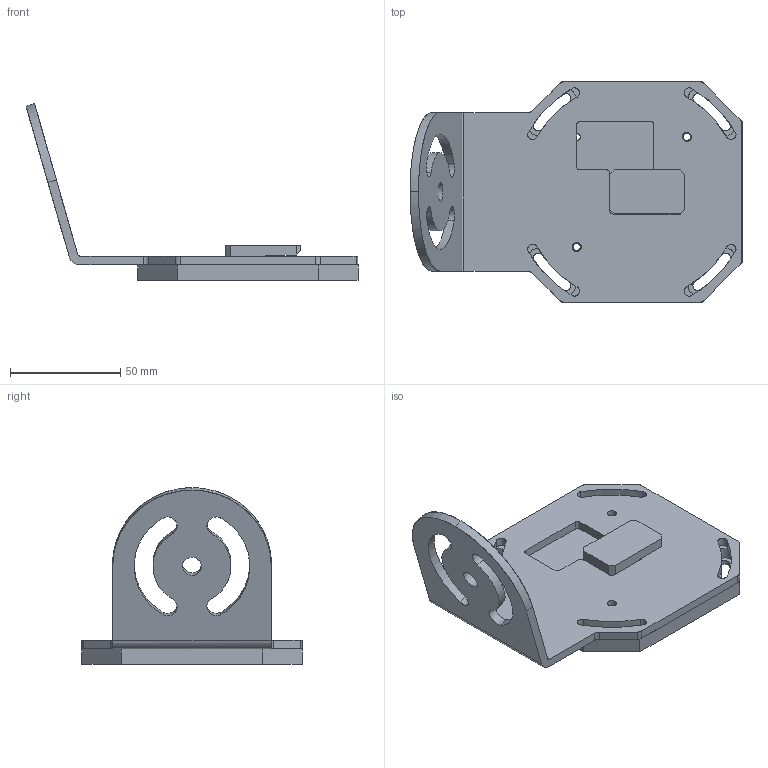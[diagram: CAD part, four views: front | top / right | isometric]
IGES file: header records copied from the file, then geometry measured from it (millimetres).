
Global section: file name: C:\Users\acarrieri\Desktop\PDS\DSD_IGS-ST\DSD0568.igs; preprocessor: I-DEAS 3D IGES Translator 13; date: 20130516.121410; units: millimetre
Bounding box: 150.67 x 100 x 80.2 mm (x, y, z)
Surface area: 55496 mm2 (no closed solid volume)
Topology: 0 solids, 0 shells, 128 faces, 1313 edges, 1634 vertices
Faces by surface type: bspline 128
